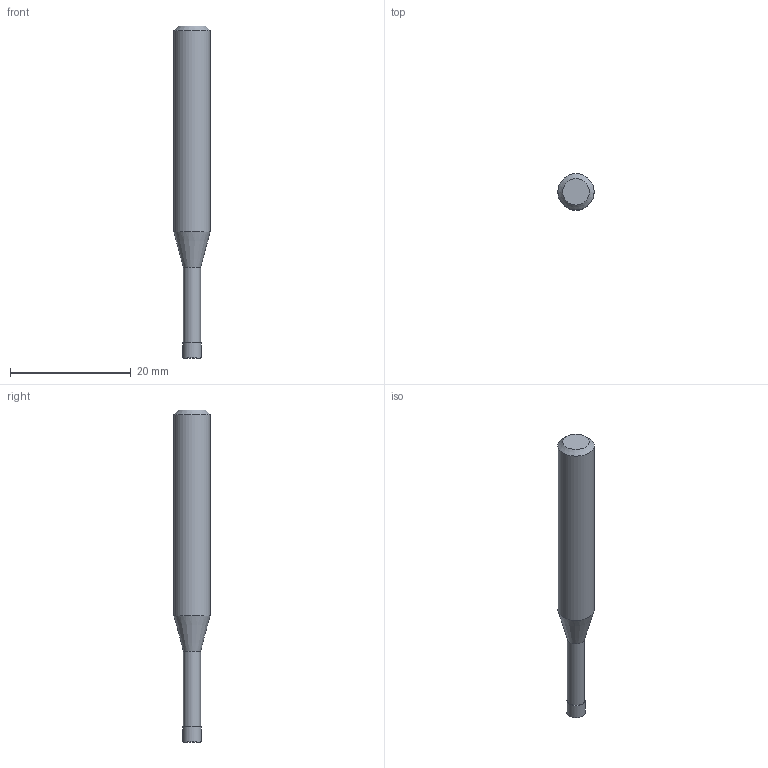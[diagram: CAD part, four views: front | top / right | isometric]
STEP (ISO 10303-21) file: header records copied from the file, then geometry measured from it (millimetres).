
FILE_DESCRIPTION((''),'2;1');
FILE_NAME('C:\Users\nsx150\AppData\Local\Temp\Mastercam 2021\8MCJJJGUOI\TEMP.step','2022-10-12T10:45:20',(''),(''),'STEP Write','Mastercam 2021 ... CNC Software, Inc.','');
FILE_SCHEMA(('AUTOMOTIVE_DESIGN'));
Length unit declared in the file: millimetre
Products named in the file (1): None
Bounding box: 6 x 6 x 55 mm (x, y, z)
Volume: 1150.9 mm3; surface area: 902.2 mm2
Topology: 2 solids, 2 shells, 10 faces, 14 edges, 8 vertices
Faces by surface type: plane 4, cylinder 3, cone 2, torus 1
Full cylindrical faces by diameter (mm): 2.85 x1, 3 x1, 6 x1
Entity records: 232 total; most frequent: DIRECTION 40, CARTESIAN_POINT 28, AXIS2_PLACEMENT_3D 20, ORIENTED_EDGE 16, EDGE_LOOP 16, STYLED_ITEM 13, ADVANCED_FACE 10, FACE_BOUND 10
